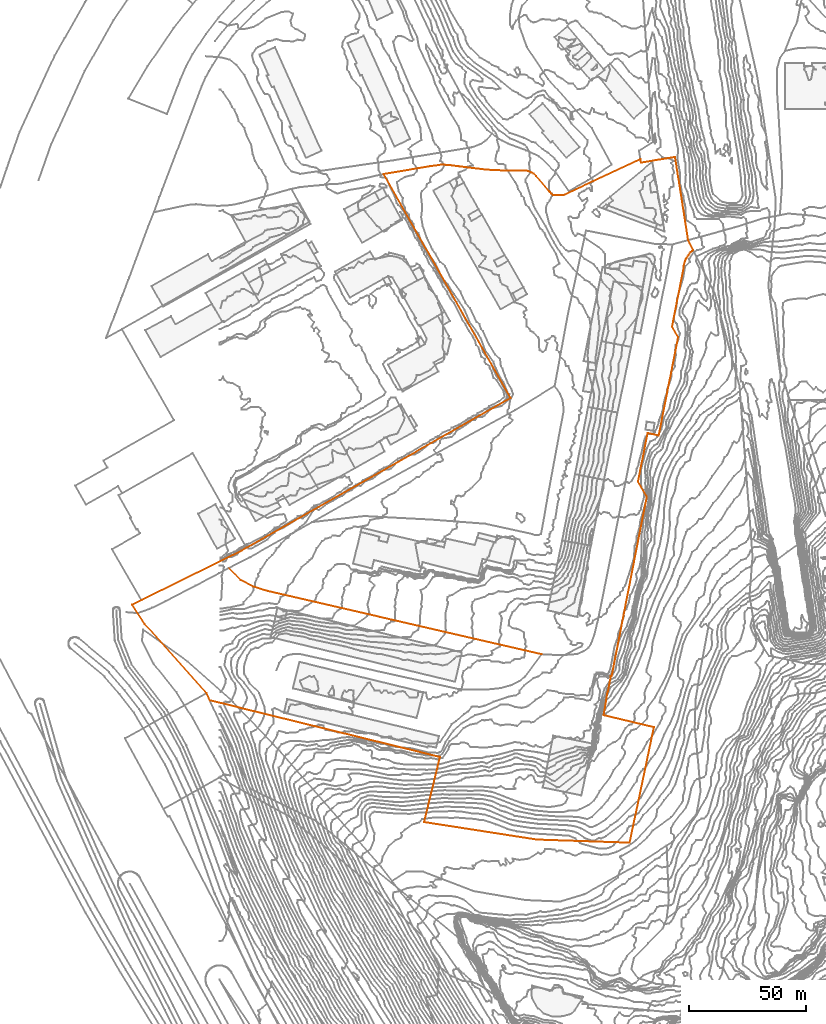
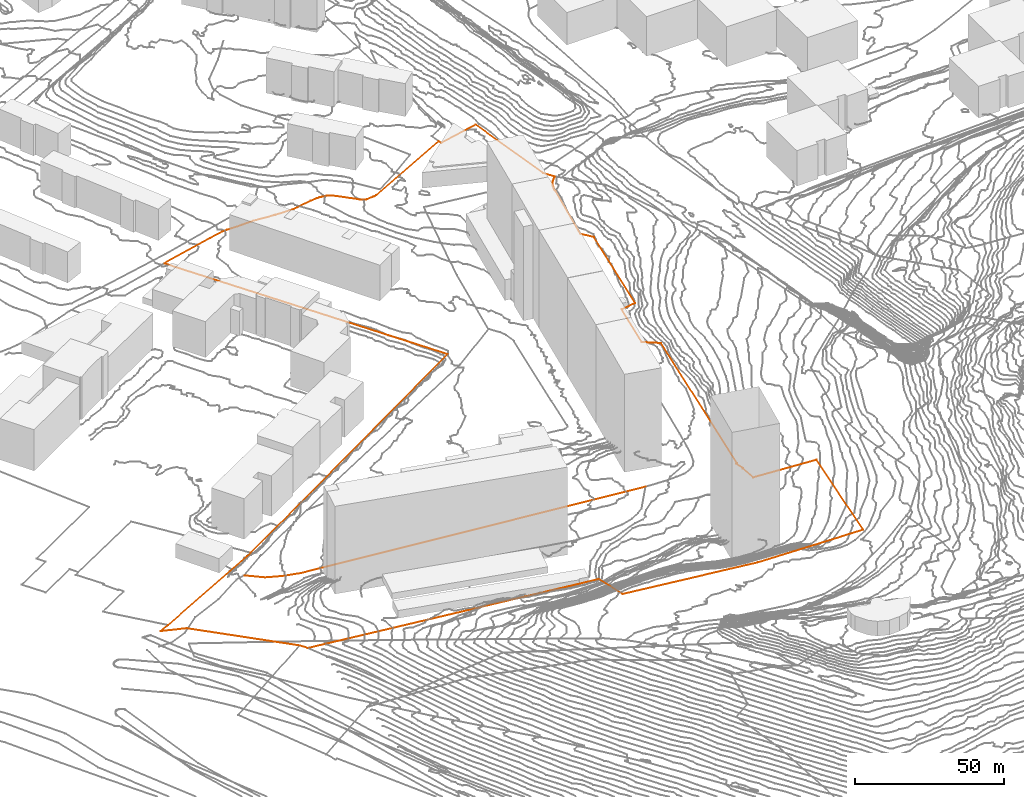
# Not in any storey, part 126 of 419: 2 proxies.
"""IFC2X3 model written with IfcOpenShell, lengths in metres."""

from ifc_helpers import new_model, entity, si_unit, frame, origin_with_axes, place, context, subcontext, project, element, save


model = new_model("IFC2X3")

# Units and contexts
model_context = context("Model", 3, precision=1e-05, world=origin_with_axes())
body_context = subcontext(model_context, "Body", "Model", "MODEL_VIEW")
ifc_project = project(units=[si_unit("AREAUNIT", "SQUARE_METRE"), si_unit("LENGTHUNIT", "METRE")], contexts=[model_context])

# Proxies
proxy_1_placement = place(None, frame((3.3920204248, 381.3976909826, 9.1), z_axis=(0.0, 0.0, 1.0), x_axis=(1.0, 0.0, 0.0)))
element("IfcBuildingElementProxy", 1, at=proxy_1_placement, Name="Route 198", ObjectType="NOTDEFINED", context=body_context, shape_type="GeometricCurveSet", body=[
    entity("IfcGeometricCurveSet", [entity("IfcPolyline", [entity("IfcCartesianPoint", [0.0, 0.0, 0.0]), entity("IfcCartesianPoint", [5.2999999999, -5.0999999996, 0.4]), entity("IfcCartesianPoint", [10.5, -7.7999999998, 0.8]), entity("IfcCartesianPoint", [16.2999999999, -9.7000000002, 1.1]), entity("IfcCartesianPoint", [134.2, -36.9000000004, 11.7])])]),
])
proxy_2_placement = place(None, frame((-37.8879795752, 365.7876909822, 10.2320001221), z_axis=(0.0, 0.0, 1.0), x_axis=(1.0, 0.0, 0.0)))
element("IfcBuildingElementProxy", 2, at=proxy_2_placement, Name="Cadastre 386", ObjectType="NOTDEFINED", context=body_context, shape_type="GeometricCurveSet", body=[
    entity("IfcGeometricCurveSet", [entity("IfcPolyline", [entity("IfcCartesianPoint", [217.8, 190.9100000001, 8.4722401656]), entity("IfcCartesianPoint", [218.03, 189.3600000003, 8.6071243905]), entity("IfcCartesianPoint", [232.65, 191.7700000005, 9.5340360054]), entity("IfcCartesianPoint", [238.24, 156.2200000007, 9.2970638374]), entity("IfcCartesianPoint", [240.41, 151.8700000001, 9.7162736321]), entity("IfcCartesianPoint", [239.83, 151.4300000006, 9.7121394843]), entity("IfcCartesianPoint", [239.29, 150.9200000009, 9.6507664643]), entity("IfcCartesianPoint", [238.78, 150.3700000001, 9.614479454]), entity("IfcCartesianPoint", [238.33, 149.79, 9.6354000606]), entity("IfcCartesianPoint", [237.9, 149.1700000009, 9.6538800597]), entity("IfcCartesianPoint", [237.53, 148.5300000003, 9.7243805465]), entity("IfcCartesianPoint", [237.1899999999, 147.8700000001, 9.7279958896]), entity("IfcCartesianPoint", [236.91, 147.1800000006, 9.7469483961]), entity("IfcCartesianPoint", [236.6800000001, 146.4700000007, 9.7369991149]), entity("IfcCartesianPoint", [236.49, 145.75, 9.7547595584]), entity("IfcCartesianPoint", [236.36, 145.0100000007, 9.7536793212]), entity("IfcCartesianPoint", [236.27, 144.2300000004, 9.7611914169]), entity("IfcCartesianPoint", [231.35, 119.04, 9.3154538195]), entity("IfcCartesianPoint", [233.95, 114.6300000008, 9.8143941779]), entity("IfcCartesianPoint", [225.62, 72.4200000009, 11.3604521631]), entity("IfcCartesianPoint", [220.86, 73.4700000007, 9.7800474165]), entity("IfcCartesianPoint", [216.75, 52.6800000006, 10.4252996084]), entity("IfcCartesianPoint", [220.54, 46.3700000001, 12.530576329]), entity("IfcCartesianPoint", [205.48, -30.6599999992, 15.4070003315]), entity("IfcCartesianPoint", [205.11, -30.5899999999, 15.2196200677]), entity("IfcCartesianPoint", [203.83, -37.5299999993, 18.0927391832]), entity("IfcCartesianPoint", [203.6800000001, -37.5199999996, 18.0258591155]), entity("IfcCartesianPoint", [202.03, -47.3999999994, 20.9038191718]), entity("IfcCartesianPoint", [223.5699999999, -52.5599999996, 23.7217106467]), entity("IfcCartesianPoint", [213.16, -102.0099999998, 28.726262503]), entity("IfcCartesianPoint", [173.22, -100.6899999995, 28.5486202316]), entity("IfcCartesianPoint", [125.12, -93.1999999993, 27.881567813]), entity("IfcCartesianPoint", [131.87, -65.3299999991, 14.7028757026]), entity("IfcCartesianPoint", [33.35, -41.0399999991, 6.2535002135]), entity("IfcCartesianPoint", [31.9399999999, -37.9499999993, 5.9331996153]), entity("IfcCartesianPoint", [5.45, -8.25, 4.2383997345]), entity("IfcCartesianPoint", [0.0, 0.0, 0.0]), entity("IfcCartesianPoint", [4.05, 1.9900000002, -0.1924003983]), entity("IfcCartesianPoint", [46.85, 23.1100000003, 0.2592498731]), entity("IfcCartesianPoint", [49.0600000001, 24.3700000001, 0.0800879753]), entity("IfcCartesianPoint", [162.22, 88.54, 2.8117376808]), entity("IfcCartesianPoint", [107.83, 184.4600000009, 0.866725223]), entity("IfcCartesianPoint", [127.66, 187.8100000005, 2.3000402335]), entity("IfcCartesianPoint", [132.6800000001, 188.5, 2.7283996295]), entity("IfcCartesianPoint", [134.53, 188.3800000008, 2.8747551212]), entity("IfcCartesianPoint", [136.39, 188.2100000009, 2.9977196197]), entity("IfcCartesianPoint", [140.25, 187.75, 3.3990538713]), entity("IfcCartesianPoint", [144.12, 187.2400000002, 3.9516038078]), entity("IfcCartesianPoint", [151.67, 186.3500000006, 4.0799118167]), entity("IfcCartesianPoint", [152.23, 186.3000000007, 4.0696501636]), entity("IfcCartesianPoint", [158.85, 185.9800000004, 4.3134967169]), entity("IfcCartesianPoint", [165.47, 185.8500000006, 5.4551519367]), entity("IfcCartesianPoint", [167.8, 185.9400000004, 5.5990558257]), entity("IfcCartesianPoint", [168.9399999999, 185.8600000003, 5.6372998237]), entity("IfcCartesianPoint", [169.77, 185.6400000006, 5.7217126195]), entity("IfcCartesianPoint", [171.1800000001, 185.1200000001, 5.9313196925]), entity("IfcCartesianPoint", [172.02, 184.6200000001, 6.0134616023]), entity("IfcCartesianPoint", [173.0600000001, 183.6800000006, 6.1779461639]), entity("IfcCartesianPoint", [178.67, 177.2100000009, 6.7523003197]), entity("IfcCartesianPoint", [179.09, 176.6300000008, 6.7251003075]), entity("IfcCartesianPoint", [179.62, 176.1200000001, 6.8126402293]), entity("IfcCartesianPoint", [180.4300000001, 175.54, 6.9241549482]), entity("IfcCartesianPoint", [180.87, 175.3800000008, 6.9641002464]), entity("IfcCartesianPoint", [181.1800000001, 175.3400000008, 6.9977005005]), entity("IfcCartesianPoint", [183.55, 175.3600000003, 7.1437747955]), entity("IfcCartesianPoint", [184.1899999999, 175.4000000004, 7.1926270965]), entity("IfcCartesianPoint", [184.83, 175.4600000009, 7.2440501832]), entity("IfcCartesianPoint", [217.8, 190.9100000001, 8.4722401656])])]),
])

save(model, "model.ifc")
